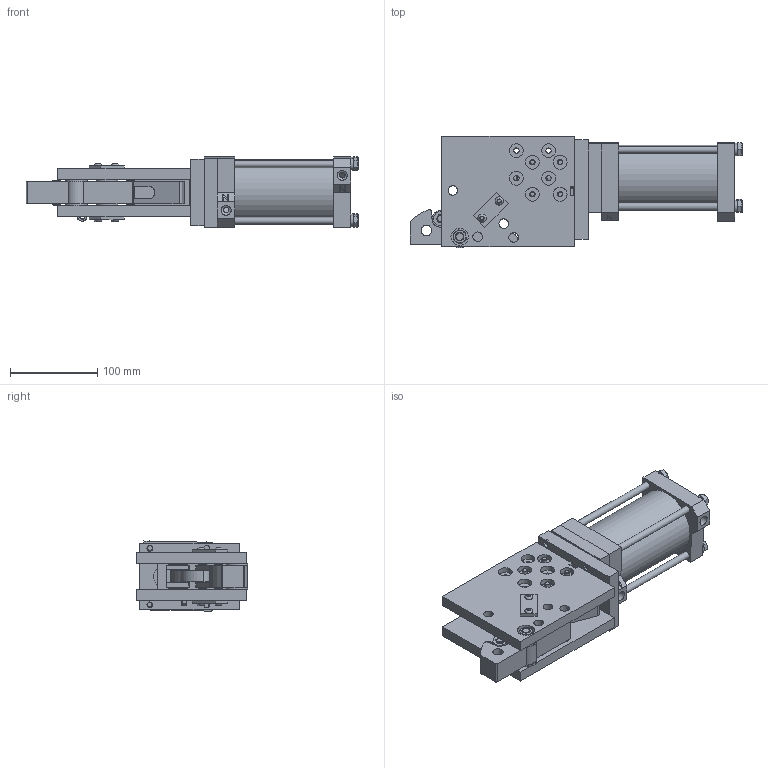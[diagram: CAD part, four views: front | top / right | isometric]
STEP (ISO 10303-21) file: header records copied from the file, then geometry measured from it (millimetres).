
FILE_DESCRIPTION(/* description */ ('SIDE PLATE-RH'),/* implementation_level */ '2;1');
FILE_NAME(/* name */ 'C:\Users\rcarver.WELKER\Desktop\CMX08V01A00.stp',/* time_stamp */ '2016-05-03T13:55:48-04:00',/* author */ ('rcarver'),/* organization */ (''),/* preprocessor_version */ 'ST-DEVELOPER v15.2',/* originating_system */ 'Autodesk Inventor 2014',/* authorisation */ '');
FILE_SCHEMA (('CONFIG_CONTROL_DESIGN'));
Products named in the file (42): CMXE01-RH; CMXE01-LH; CMXE05; CMXE06; CMXE07; CMXE19; 0.500X1.500XHH-.250; 0.375-16 HEXJAMNUT; CJ08E10-4; 1 OD X .500 ID X .03; M5X0.8-12 BHCS; C-31ST-PA; CMXE04; NUT; NYLON; 94645A205; 0.438-20X1.750 FLATPOINT; M8X1.25-20 SHCS; CMXE22; CMXE13; CMXE15-05; CMXE17; WCW-2169E01-50; NL8; MC0750X1000-125N; TSR-075BN70; CMXE03; CMXE02; DB4E16; UBS40E01N; UBS40E08; S01303E04; MOR-2.0X016.0bn70; TSP-332BN70; MA1500x2.75DIA; 0.625ID-SAE; 0.625-18 HEXNUT; UBS40E02-50; UBS40E03N; MOR-3.0X064.0bn70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
Bounding box: 380.9 x 128.01 x 80.66 mm (x, y, z)
Volume: 1366662.9 mm3; surface area: 453202.4 mm2
Topology: 72 solids, 72 shells, 1073 faces, 2306 edges, 1498 vertices
Faces by surface type: plane 516, cylinder 375, cone 160, torus 16, bspline 6
Full cylindrical faces by diameter (mm): 4.134 x4, 5 x4, 5.076 x1, 5.188 x4, 5.2 x4, 6 x14, 6.045 x16, 6.401 x2, 6.538 x1, 6.647 x16, 6.782 x4, 7.01 x6, 7.798 x1, 7.925 x9, 7.938 x4, 8 x19, 8.026 x20, 8.5 x4, 8.7 x4, 8.731 x8, 9 x4, 9.5 x4, 9.525 x2, 9.728 x3, 10.917 x8, 11.112 x1, 11.43 x4, 11.445 x2, 12 x1, 12.7 x11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
Entity records: 21377 total; most frequent: CARTESIAN_POINT 4468, DIRECTION 3564, ORIENTED_EDGE 2618, AXIS2_PLACEMENT_3D 1531, EDGE_LOOP 1320, EDGE_CURVE 1309, VERTEX_POINT 1013, ADVANCED_FACE 752
